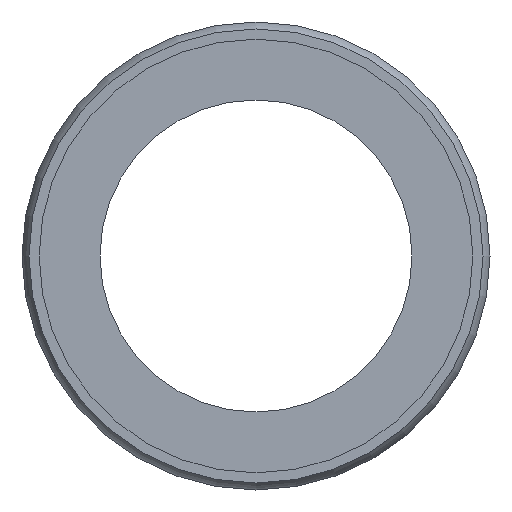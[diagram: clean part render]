
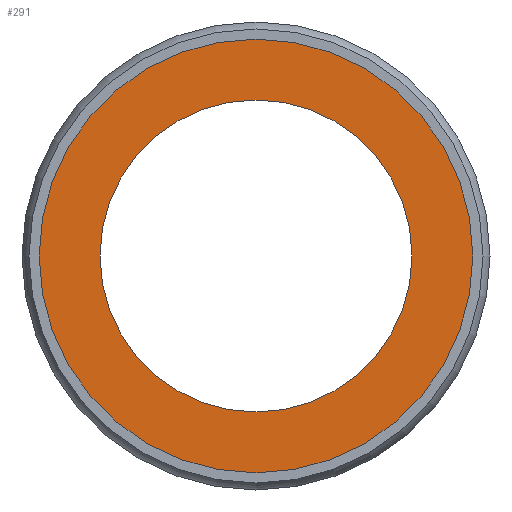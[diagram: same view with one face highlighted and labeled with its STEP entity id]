
A CAD part, left-side view. The second image highlights one B-rep face of the part: STEP entity #291.
In plain terms, the highlighted planar face has unit normal (-1, 0, 0).
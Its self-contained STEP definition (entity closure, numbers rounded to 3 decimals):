
#257=CARTESIAN_POINT('',(0.1,0.0,20.85));
#258=VERTEX_POINT('',#257);
#259=CARTESIAN_POINT('',(0.1,0.0,0.));
#260=DIRECTION('',(-1.0,0.0,0.0));
#261=DIRECTION('',(0.0,0.0,1.0));
#262=AXIS2_PLACEMENT_3D('',#259,#260,#261);
#263=CIRCLE('',#262,20.85);
#264=EDGE_CURVE('',#258,#258,#263,.T.);
#272=CARTESIAN_POINT('',(0.1,0.0,17.925));
#273=DIRECTION('',(-1.0,0.0,0.0));
#274=DIRECTION('',(0.0,0.0,1.0));
#275=AXIS2_PLACEMENT_3D('',#272,#273,#274);
#276=PLANE('',#275);
#277=ORIENTED_EDGE('',*,*,#264,.T.);
#278=EDGE_LOOP('',(#277));
#279=FACE_OUTER_BOUND('',#278,.T.);
#280=CARTESIAN_POINT('',(0.1,0.0,15.));
#281=VERTEX_POINT('',#280);
#282=CARTESIAN_POINT('',(0.1,0.0,0.));
#283=DIRECTION('',(-1.0,0.0,0.0));
#284=DIRECTION('',(0.0,0.0,1.0));
#285=AXIS2_PLACEMENT_3D('',#282,#283,#284);
#286=CIRCLE('',#285,15.);
#287=EDGE_CURVE('',#281,#281,#286,.T.);
#288=ORIENTED_EDGE('',*,*,#287,.F.);
#289=EDGE_LOOP('',(#288));
#290=FACE_BOUND('',#289,.T.);
#291=ADVANCED_FACE('',(#279,#290),#276,.T.);
